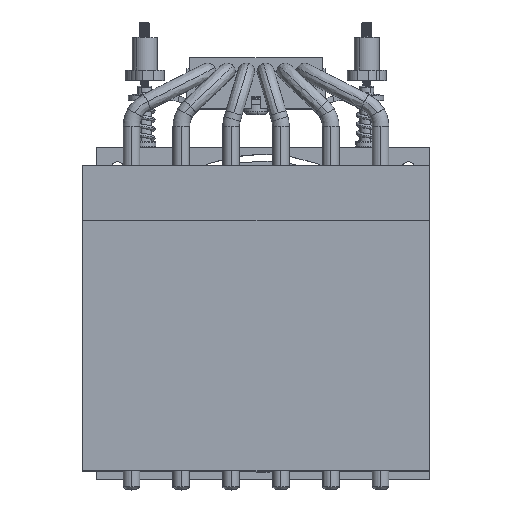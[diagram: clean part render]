
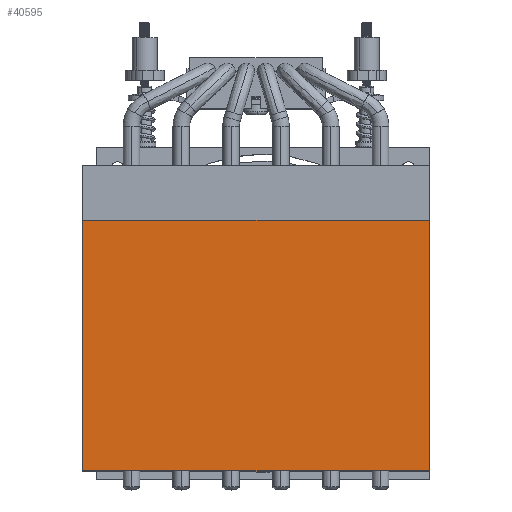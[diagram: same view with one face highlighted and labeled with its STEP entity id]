
A CAD part, top view. The second image highlights one B-rep face of the part: STEP entity #40595.
In plain terms, the highlighted planar face has unit normal (0, 0, 1) as drawn and (1, 0, 0) by its records, which use the part's own axes.
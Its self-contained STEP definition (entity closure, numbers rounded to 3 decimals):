
#168 = CARTESIAN_POINT ( 'NONE',  ( 57., -125., -110.3 ) ) ;
#772 = LINE ( 'NONE', #14870, #13102 ) ;
#939 = LINE ( 'NONE', #29143, #44243 ) ;
#3859 = DIRECTION ( 'NONE',  ( 1., 0., 0. ) ) ;
#4141 = CARTESIAN_POINT ( 'NONE',  ( 57., -125., -19.8 ) ) ;
#4143 = ORIENTED_EDGE ( 'NONE', *, *, #40268, .F. ) ;
#5255 = CARTESIAN_POINT ( 'NONE',  ( 57., -125., -110.3 ) ) ;
#9382 = VECTOR ( 'NONE', #18012, 1000. ) ;
#10894 = VERTEX_POINT ( 'NONE', #11894 ) ;
#10901 = VERTEX_POINT ( 'NONE', #29704 ) ;
#11894 = CARTESIAN_POINT ( 'NONE',  ( 57., 0., -19.8 ) ) ;
#13102 = VECTOR ( 'NONE', #28968, 1000. ) ;
#14870 = CARTESIAN_POINT ( 'NONE',  ( 57., -125., -110.3 ) ) ;
#16407 = EDGE_CURVE ( 'NONE', #44100, #30187, #22583, .T. ) ;
#17961 = DIRECTION ( 'NONE',  ( 0., 0., -1. ) ) ;
#18012 = DIRECTION ( 'NONE',  ( 0., 1., 0. ) ) ;
#18365 = ORIENTED_EDGE ( 'NONE', *, *, #33988, .T. ) ;
#21878 = EDGE_LOOP ( 'NONE', ( #29494, #4143, #18365, #42914 ) ) ;
#22583 = LINE ( 'NONE', #5255, #44144 ) ;
#28968 = DIRECTION ( 'NONE',  ( 0., 0., -1. ) ) ;
#29143 = CARTESIAN_POINT ( 'NONE',  ( 57., 0., -110.3 ) ) ;
#29494 = ORIENTED_EDGE ( 'NONE', *, *, #45113, .F. ) ;
#29704 = CARTESIAN_POINT ( 'NONE',  ( 57., -125., -19.8 ) ) ;
#30187 = VERTEX_POINT ( 'NONE', #32110 ) ;
#32110 = CARTESIAN_POINT ( 'NONE',  ( 57., 0., -110.3 ) ) ;
#33988 = EDGE_CURVE ( 'NONE', #10901, #44100, #772, .T. ) ;
#34084 = DIRECTION ( 'NONE',  ( 0., 1., 0. ) ) ;
#34917 = CARTESIAN_POINT ( 'NONE',  ( 57., -125., -110.3 ) ) ;
#36103 = DIRECTION ( 'NONE',  ( 0., 0., -1. ) ) ;
#36495 = LINE ( 'NONE', #4141, #9382 ) ;
#38171 = AXIS2_PLACEMENT_3D ( 'NONE', #168, #3859, #17961 ) ;
#39425 = FACE_OUTER_BOUND ( 'NONE', #21878, .T. ) ;
#40268 = EDGE_CURVE ( 'NONE', #10901, #10894, #36495, .T. ) ;
#40595 = ADVANCED_FACE ( 'NONE', ( #39425 ), #43093, .T. ) ;
#42914 = ORIENTED_EDGE ( 'NONE', *, *, #16407, .T. ) ;
#43093 = PLANE ( 'NONE',  #38171 ) ;
#44100 = VERTEX_POINT ( 'NONE', #34917 ) ;
#44144 = VECTOR ( 'NONE', #34084, 1000. ) ;
#44243 = VECTOR ( 'NONE', #36103, 1000. ) ;
#45113 = EDGE_CURVE ( 'NONE', #10894, #30187, #939, .T. ) ;
